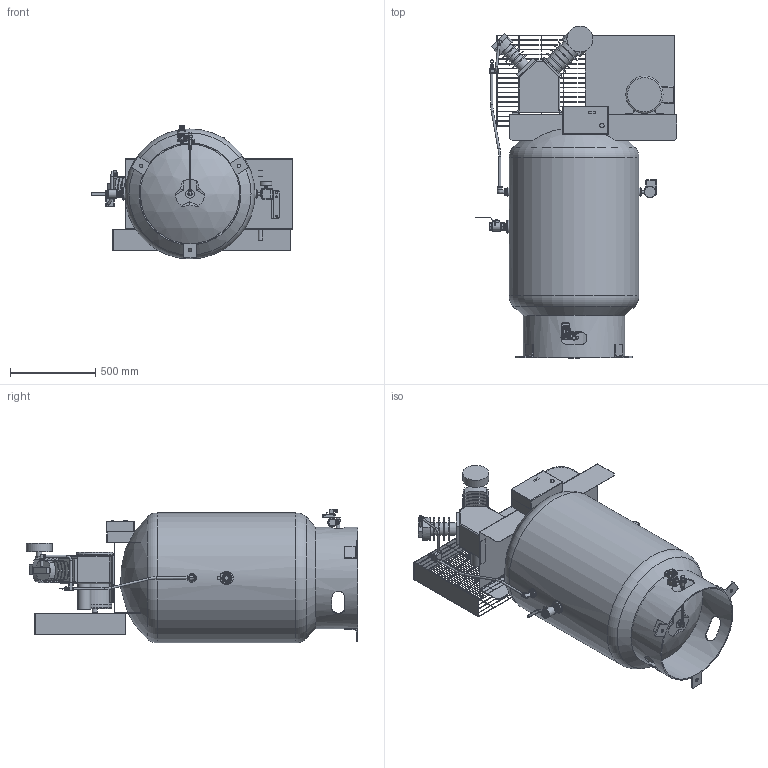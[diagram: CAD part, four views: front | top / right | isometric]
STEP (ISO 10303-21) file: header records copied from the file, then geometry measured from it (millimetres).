
FILE_DESCRIPTION(/* description */ ('','CAx-IF Rec.Pracs.---Representation and Presentation of Product Manufacturing Information (PMI)---4.0---2014-10-13'),/* implementation_level */ '2;1');
FILE_NAME(/* name */ 'C:\Vault Local\Designs\CAD\Manufacturing\Manufacturing Components\Compressors\TCMP Standalone Air Compressors\TCMP-60\Export\TCMP-60.stp',/* time_stamp */ '2020-12-30T09:58:10-06:00',/* author */ ('myoung'),/* organization */ (''),/* preprocessor_version */ 'ST-DEVELOPER v18.1',/* originating_system */ 'Autodesk Inventor 2020',/* authorisation */ '');
FILE_SCHEMA (('AP242_MANAGED_MODEL_BASED_3D_ENGINEERING_MIM_LF { 1 0 10303 442 1 1 4 }'));
Length unit declared in the file: inch
Products named in the file (1): IR2545K10 Simplex 10hp_Shrinkwrap_2
Bounding box: 1180.34 x 1945.64 x 784.58 mm (x, y, z)
Volume: 529950062.5 mm3; surface area: 8757580.6 mm2
Topology: 6 solids, 27 shells, 2623 faces, 7359 edges, 4748 vertices
Faces by surface type: plane 1295, cylinder 614, cone 299, bspline 223, torus 113, sphere 79
Full cylindrical faces by diameter (mm): 4.75 x1, 5.5 x2, 6.35 x5, 6.5 x1, 6.548 x1, 6.833 x1, 7.62 x1, 9.246 x2, 9.5 x1, 10 x1, 10.039 x1, 10.287 x1, 10.414 x6, 12.065 x1, 12.7 x7, 13 x1, 13.024 x1, 13.097 x2, 13.716 x3, 14.5 x1, 17 x1, 17.018 x2, 17.5 x1, 19.431 x2, 19.645 x1, 20.574 x3, 21.59 x7, 25.4 x2, 26.645 x1, 27.686 x1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
Entity records: 263922 total; most frequent: CARTESIAN_POINT 196251, ORIENTED_EDGE 14276, DIRECTION 12693, EDGE_CURVE 7302, VERTEX_POINT 4748, AXIS2_PLACEMENT_3D 4401, LINE 3891, VECTOR 3891
